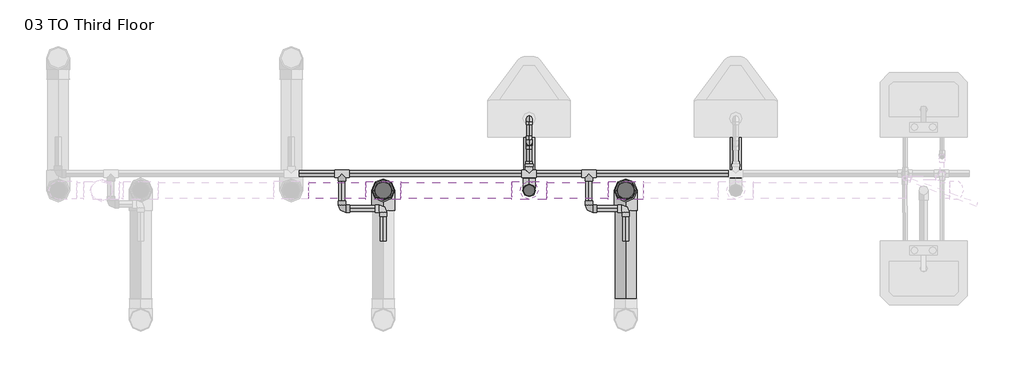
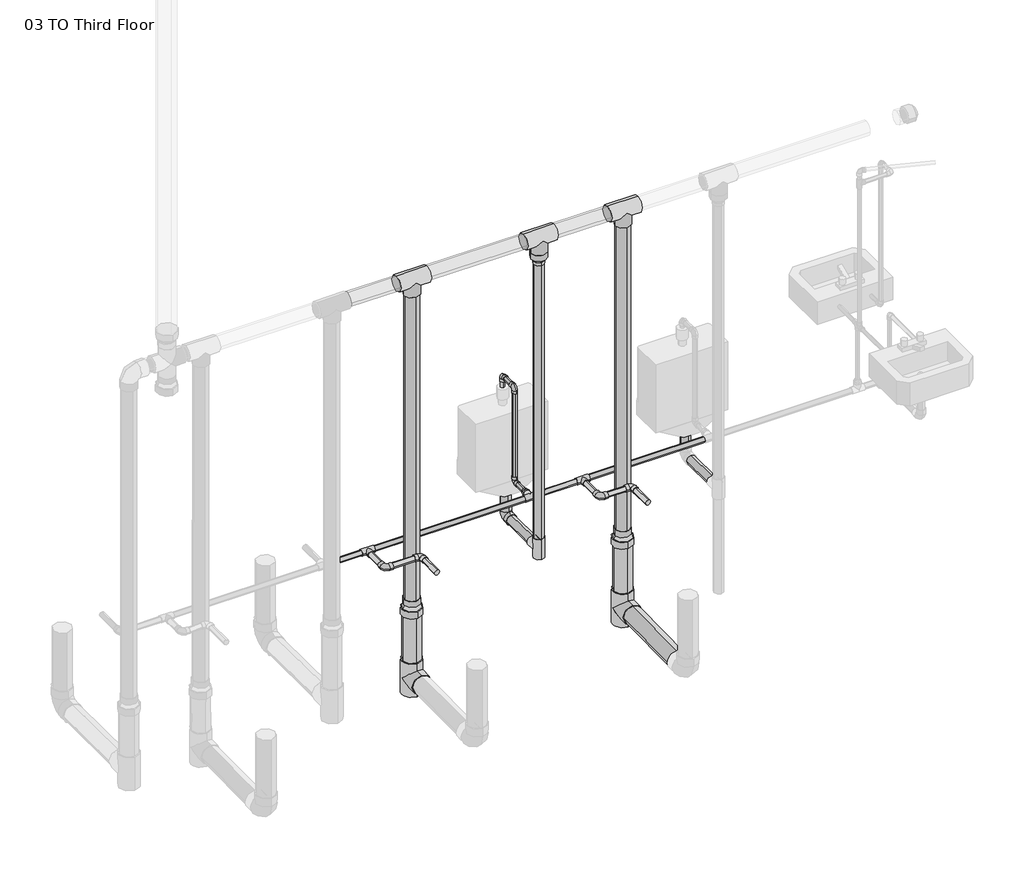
# One storey, part 2 of 3: 27 pipe segments, 21 pipe fittings.
"""IFC4 building model written with IfcOpenShell, lengths in millimetres."""

from ifc_helpers import new_model, si_unit, point, frame, frame_2d, origin, place, context, project, spatial, circle_curve, trimmed, segment, composite_curve, outline, extrude, transform, mapped, element, save
from components import elbow_pvc_sch_40_standard_39e3f0c3, elbow_pvc_sch_40_standard_517a5a8d, elbow_pvc_sch_40_standard_b266ab3f, reducer_pvc_sch_40_dwv_standard_464ee0c2, reducer_pvc_sch_40_dwv_standard_bc2808fd, reducer_pvc_sch_40_dwv_standard_0d64fc83, tee_pvc_sch_40_standard_9cddf13a, tee_pvc_sch_40_standard_b08d6211, tee_pvc_sch_40_standard_9261842d, tee_pvc_sch_40_standard_72b35c3b

model = new_model("IFC4")

# Units and contexts
model_context = context("Model", 3, world=origin())
ifc_project = project(units=[si_unit("LENGTHUNIT", "METRE", prefix="MILLI")], contexts=[model_context])

# Site, building, storey
site = spatial("IfcSite", under=ifc_project)
building = spatial("IfcBuilding", under=site)
storey = spatial("IfcBuildingStorey", under=building, Name="03 TO Third Floor", Elevation=9144.0)

# Pipe fittings
placement = place(None, origin())
elbow_pvc_sch_40_standard_shape = elbow_pvc_sch_40_standard_39e3f0c3(model_context)
element("IfcPipeFitting", 1, ObjectType="Elbow - PVC - Sch 40 : Standard", at=placement, inside=storey, context=model_context, shape_type="MappedRepresentation", body=[
    mapped(elbow_pvc_sch_40_standard_shape, transform((-14812.7542617, -4075.7109575, 9218.6125), x_axis=(0.0, 0.0, -1.0), y_axis=(0.0, -1.0, 0.0), z_axis=(-1.0, 0.0, 0.0))),
])
elbow_pvc_sch_40_standard_2_shape = elbow_pvc_sch_40_standard_517a5a8d(model_context)
element("IfcPipeFitting", 2, ObjectType="Elbow - PVC - Sch 40 : Standard", at=placement, inside=storey, context=model_context, shape_type="MappedRepresentation", body=[
    mapped(elbow_pvc_sch_40_standard_2_shape, transform((-15620.0974824, -4541.2453325, 9499.6), x_axis=(0.0, 1.0, 0.0), y_axis=(-1.0, 0.0, 0.0), z_axis=(0.0, 0.0, 1.0))),
])
element("IfcPipeFitting", 3, ObjectType="Elbow - PVC - Sch 40 : Standard", at=placement, inside=storey, context=model_context, shape_type="MappedRepresentation", body=[
    mapped(elbow_pvc_sch_40_standard_2_shape, transform((-15848.6974824, -4541.2453325, 9499.6), x_axis=(0.0, -1.0, 0.0), y_axis=(1.0, 0.0, 0.0), z_axis=(0.0, 0.0, 1.0))),
])
element("IfcPipeFitting", 4, ObjectType="Elbow - PVC - Sch 40 : Standard", at=placement, inside=storey, context=model_context, shape_type="MappedRepresentation", body=[
    mapped(elbow_pvc_sch_40_standard_2_shape, transform((-14278.7262962, -4541.2453325, 9499.6), x_axis=(0.0, 1.0, 0.0), y_axis=(-1.0, 0.0, 0.0), z_axis=(0.0, 0.0, 1.0))),
])
element("IfcPipeFitting", 5, ObjectType="Elbow - PVC - Sch 40 : Standard", at=placement, inside=storey, context=model_context, shape_type="MappedRepresentation", body=[
    mapped(elbow_pvc_sch_40_standard_2_shape, transform((-14481.9262962, -4541.2453325, 9499.6), x_axis=(0.0, -1.0, 0.0), y_axis=(1.0, 0.0, 0.0), z_axis=(0.0, 0.0, 1.0))),
])
elbow_pvc_sch_40_standard_3_shape = elbow_pvc_sch_40_standard_b266ab3f(model_context)
element("IfcPipeFitting", 6, ObjectType="Elbow - PVC - Sch 40 : Standard", at=placement, inside=storey, context=model_context, shape_type="MappedRepresentation", body=[
    mapped(elbow_pvc_sch_40_standard_3_shape, transform((-14812.7542617, -4041.5797075, 10132.21875), x_axis=(0.0, 0.0, 1.0), y_axis=(0.0, -1.0, 0.0), z_axis=(1.0, 0.0, 0.0))),
])
element("IfcPipeFitting", 7, ObjectType="Elbow - PVC - Sch 40 : Standard", at=placement, inside=storey, context=model_context, shape_type="MappedRepresentation", body=[
    mapped(elbow_pvc_sch_40_standard_3_shape, transform((-14812.7542617, -4174.9297075, 10132.21875), x_axis=(0.0, -1.0, 0.0), y_axis=(0.0, 0.0, -1.0), z_axis=(1.0, 0.0, 0.0))),
])
element("IfcPipeFitting", 8, ObjectType="Elbow - PVC - Sch 40 : Standard", at=placement, inside=storey, context=model_context, shape_type="MappedRepresentation", body=[
    mapped(elbow_pvc_sch_40_standard_3_shape, transform((-14812.7542617, -4174.9297075, 9499.6), x_axis=(0.0, 0.0, -1.0), y_axis=(0.0, -1.0, 0.0), z_axis=(-1.0, 0.0, 0.0))),
])
reducer_pvc_sch_40_dwv_standard_shape = reducer_pvc_sch_40_dwv_standard_464ee0c2(model_context)
element("IfcPipeFitting", 9, ObjectType="Reducer - PVC - Sch 40 - DWV : Standard", at=placement, inside=storey, context=model_context, shape_type="MappedRepresentation", body=[
    mapped(reducer_pvc_sch_40_dwv_standard_shape, transform((-14812.7542617, -4439.7857603, 11210.925), x_axis=(0.0, 0.0, -1.0), y_axis=(1.0, 0.0, 0.0), z_axis=(0.0, -1.0, 0.0))),
])
reducer_pvc_sch_40_dwv_standard_2_shape = reducer_pvc_sch_40_dwv_standard_bc2808fd(model_context)
element("IfcPipeFitting", 10, ObjectType="Reducer - PVC - Sch 40 - DWV : Standard", at=placement, inside=storey, context=model_context, shape_type="MappedRepresentation", body=[
    mapped(reducer_pvc_sch_40_dwv_standard_2_shape, transform((-14278.7262962, -4439.7857603, 9165.7732164), x_axis=(0.0, 0.0, -1.0), y_axis=(-1.0, 0.0, 0.0), z_axis=(0.0, 1.0, 0.0))),
])
element("IfcPipeFitting", 11, ObjectType="Reducer - PVC - Sch 40 - DWV : Standard", at=placement, inside=storey, context=model_context, shape_type="MappedRepresentation", body=[
    mapped(reducer_pvc_sch_40_dwv_standard_2_shape, transform((-15620.0974824, -4439.7857603, 9165.7732164), x_axis=(0.0, 0.0, -1.0), y_axis=(-1.0, 0.0, 0.0), z_axis=(0.0, 1.0, 0.0))),
])
reducer_pvc_sch_40_dwv_standard_3_shape = reducer_pvc_sch_40_dwv_standard_0d64fc83(model_context)
element("IfcPipeFitting", 12, ObjectType="Reducer - PVC - Sch 40 - DWV : Standard", at=placement, inside=storey, context=model_context, shape_type="MappedRepresentation", body=[
    mapped(reducer_pvc_sch_40_dwv_standard_3_shape, transform((-14812.7542617, -4307.8701325, 9499.6), x_axis=(0.0, 1.0, 0.0), y_axis=(-1.0, 0.0, 0.0), z_axis=(0.0, 0.0, 1.0))),
])
tee_pvc_sch_40_standard_shape = tee_pvc_sch_40_standard_9cddf13a(model_context)
element("IfcPipeFitting", 13, ObjectType="Tee - PVC - Sch 40 : Standard", at=placement, inside=storey, context=model_context, shape_type="MappedRepresentation", body=[
    mapped(tee_pvc_sch_40_standard_shape, transform((-15620.0974824, -4439.7857603, 8643.4730164), x_axis=(0.0, 0.0, 1.0), y_axis=(0.0, 1.0, 0.0), z_axis=(-1.0, 0.0, 0.0))),
])
element("IfcPipeFitting", 14, ObjectType="Tee - PVC - Sch 40 : Standard", at=placement, inside=storey, context=model_context, shape_type="MappedRepresentation", body=[
    mapped(tee_pvc_sch_40_standard_shape, transform((-14278.7262962, -4439.7857603, 8643.4730164), x_axis=(0.0, 0.0, 1.0), y_axis=(0.0, 1.0, 0.0), z_axis=(-1.0, 0.0, 0.0))),
])
tee_pvc_sch_40_standard_2_shape = tee_pvc_sch_40_standard_b08d6211(model_context)
element("IfcPipeFitting", 15, ObjectType="Tee - PVC - Sch 40 : Standard", at=placement, inside=storey, context=model_context, shape_type="MappedRepresentation", body=[
    mapped(tee_pvc_sch_40_standard_2_shape, transform((-14812.7542617, -4439.7857603, 9222.4049459), x_axis=(0.0, 0.0, 1.0), y_axis=(0.0, -1.0, 0.0), z_axis=(1.0, 0.0, 0.0))),
])
tee_pvc_sch_40_standard_3_shape = tee_pvc_sch_40_standard_9261842d(model_context)
element("IfcPipeFitting", 16, ObjectType="Tee - PVC - Sch 40 : Standard", at=placement, inside=storey, context=model_context, shape_type="MappedRepresentation", body=[
    mapped(tee_pvc_sch_40_standard_3_shape, transform((-14278.7262962, -4439.7857603, 11307.7752), x_axis=(-1.0, 0.0, 0.0), y_axis=(0.0, 0.0, 1.0), z_axis=(0.0, 1.0, 0.0))),
])
element("IfcPipeFitting", 17, ObjectType="Tee - PVC - Sch 40 : Standard", at=placement, inside=storey, context=model_context, shape_type="MappedRepresentation", body=[
    mapped(tee_pvc_sch_40_standard_3_shape, transform((-14812.7542617, -4439.7857603, 11307.7752), x_axis=(-1.0, 0.0, 0.0), y_axis=(0.0, 0.0, 1.0), z_axis=(0.0, 1.0, 0.0))),
])
element("IfcPipeFitting", 18, ObjectType="Tee - PVC - Sch 40 : Standard", at=placement, inside=storey, context=model_context, shape_type="MappedRepresentation", body=[
    mapped(tee_pvc_sch_40_standard_3_shape, transform((-15620.0974824, -4439.7857603, 11307.7752), x_axis=(-1.0, 0.0, 0.0), y_axis=(0.0, 0.0, 1.0), z_axis=(0.0, 1.0, 0.0))),
])
tee_pvc_sch_40_standard_4_shape = tee_pvc_sch_40_standard_72b35c3b(model_context)
element("IfcPipeFitting", 19, ObjectType="Tee - PVC - Sch 40 : Standard", at=placement, inside=storey, context=model_context, shape_type="MappedRepresentation", body=[
    mapped(tee_pvc_sch_40_standard_4_shape, transform((-15848.6974824, -4347.5703325, 9499.6), x_axis=(-1.0, 0.0, 0.0), y_axis=(0.0, 1.0, 0.0), z_axis=(0.0, 0.0, -1.0))),
])
element("IfcPipeFitting", 20, ObjectType="Tee - PVC - Sch 40 : Standard", at=placement, inside=storey, context=model_context, shape_type="MappedRepresentation", body=[
    mapped(tee_pvc_sch_40_standard_4_shape, transform((-14481.9262962, -4347.5703325, 9499.6), x_axis=(-1.0, 0.0, 0.0), y_axis=(0.0, 1.0, 0.0), z_axis=(0.0, 0.0, -1.0))),
])
element("IfcPipeFitting", 21, ObjectType="Tee - PVC - Sch 40 : Standard", at=placement, inside=storey, context=model_context, shape_type="MappedRepresentation", body=[
    mapped(tee_pvc_sch_40_standard_4_shape, transform((-14812.7542617, -4347.5703325, 9499.6), x_axis=(-1.0, 0.0, 0.0), y_axis=(0.0, -1.0, 0.0), z_axis=(0.0, 0.0, 1.0))),
])

# Pipe segments
element("IfcPipeSegment", 22, ObjectType="Standard", at=placement, inside=storey, context=model_context, shape_type="SweptSolid", body=[
    extrude(outline(composite_curve([segment(trimmed(circle_curve(frame_2d((0.0, -57.15)), 57.15), [point((-57.15, -57.15))], [point((0.0, 0.0))], False, "CARTESIAN"), True, "CONTINUOUS"), segment(trimmed(circle_curve(frame_2d((0.0, -57.15)), 57.15), [point((0.0, 0.0))], [point((57.15, -57.15))], False, "CARTESIAN"), True, "CONTINUOUS"), segment(trimmed(circle_curve(frame_2d((0.0, -57.15)), 57.15), [point((57.15, -57.15))], [point((0.0, -114.3000001))], False, "CARTESIAN"), True, "CONTINUOUS"), segment(trimmed(circle_curve(frame_2d((0.0, -57.15)), 57.15), [point((0.0, -114.3000001))], [point((-57.15, -57.15))], False, "CARTESIAN"), True, "CONTINUOUS")], self_intersect=False)), frame((-14278.7262962, -5039.2392547, 8580.0756086), z_axis=(0.0, 0.999945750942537, 0.010416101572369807), x_axis=(1.0, 0.0, 0.0)), (0.0, 0.0, 1.0), 488.9563285),
])
element("IfcPipeSegment", 23, ObjectType="Standard", at=placement, inside=storey, context=model_context, shape_type="SweptSolid", body=[
    extrude(outline(composite_curve([segment(trimmed(circle_curve(frame_2d((-15620.0974824, -4439.7857603)), 57.15), [point((-15677.2474824, -4439.7857603))], [point((-15620.0974824, -4382.6357603))], False, "CARTESIAN"), True, "CONTINUOUS"), segment(trimmed(circle_curve(frame_2d((-15620.0974824, -4439.7857603)), 57.15), [point((-15620.0974824, -4382.6357603))], [point((-15562.9474824, -4439.7857603))], False, "CARTESIAN"), True, "CONTINUOUS"), segment(trimmed(circle_curve(frame_2d((-15620.0974824, -4439.7857603)), 57.15), [point((-15562.9474824, -4439.7857603))], [point((-15620.0974824, -4496.9357603))], False, "CARTESIAN"), True, "CONTINUOUS"), segment(trimmed(circle_curve(frame_2d((-15620.0974824, -4439.7857603)), 57.15), [point((-15620.0974824, -4496.9357603))], [point((-15677.2474824, -4439.7857603))], False, "CARTESIAN"), True, "CONTINUOUS")], self_intersect=False)), frame((0.0, 0.0, 8754.5980164), z_axis=(0.0, 0.0, 1.0), x_axis=(1.0, 0.0, 0.0)), (0.0, 0.0, 1.0), 304.8),
])
element("IfcPipeSegment", 24, ObjectType="Standard", at=placement, inside=storey, context=model_context, shape_type="SweptSolid", body=[
    extrude(outline(composite_curve([segment(trimmed(circle_curve(frame_2d((-14278.7262962, -4439.7857603)), 57.15), [point((-14335.8762962, -4439.7857603))], [point((-14278.7262962, -4382.6357603))], False, "CARTESIAN"), True, "CONTINUOUS"), segment(trimmed(circle_curve(frame_2d((-14278.7262962, -4439.7857603)), 57.15), [point((-14278.7262962, -4382.6357603))], [point((-14221.5762962, -4439.7857603))], False, "CARTESIAN"), True, "CONTINUOUS"), segment(trimmed(circle_curve(frame_2d((-14278.7262962, -4439.7857603)), 57.15), [point((-14221.5762962, -4439.7857603))], [point((-14278.7262962, -4496.9357603))], False, "CARTESIAN"), True, "CONTINUOUS"), segment(trimmed(circle_curve(frame_2d((-14278.7262962, -4439.7857603)), 57.15), [point((-14278.7262962, -4496.9357603))], [point((-14335.8762962, -4439.7857603))], False, "CARTESIAN"), True, "CONTINUOUS")], self_intersect=False)), frame((0.0, 0.0, 8754.5980164), z_axis=(0.0, 0.0, 1.0), x_axis=(1.0, 0.0, 0.0)), (0.0, 0.0, 1.0), 304.8),
])
element("IfcPipeSegment", 25, ObjectType="Standard", at=placement, inside=storey, context=model_context, shape_type="SweptSolid", body=[
    extrude(outline(composite_curve([segment(trimmed(circle_curve(frame_2d((-14812.7542617, -4075.7109575)), 30.1625), [point((-14782.5917617, -4075.7109575))], [point((-14812.7542617, -4105.8734575))], False, "CARTESIAN"), True, "CONTINUOUS"), segment(trimmed(circle_curve(frame_2d((-14812.7542617, -4075.7109575)), 30.1625), [point((-14812.7542617, -4105.8734575))], [point((-14842.9167617, -4075.7109575))], False, "CARTESIAN"), True, "CONTINUOUS"), segment(trimmed(circle_curve(frame_2d((-14812.7542617, -4075.7109575)), 30.1625), [point((-14842.9167617, -4075.7109575))], [point((-14812.7542617, -4045.5484575))], False, "CARTESIAN"), True, "CONTINUOUS"), segment(trimmed(circle_curve(frame_2d((-14812.7542617, -4075.7109575)), 30.1625), [point((-14812.7542617, -4045.5484575))], [point((-14782.5917617, -4075.7109575))], False, "CARTESIAN"), True, "CONTINUOUS")], self_intersect=False)), frame((0.0, 0.0, 9283.2720133), z_axis=(0.0, 0.0, 1.0), x_axis=(1.0, 0.0, 0.0)), (0.0, 0.0, 1.0), 109.9654867),
])
element("IfcPipeSegment", 26, ObjectType="Standard", at=placement, inside=storey, context=model_context, shape_type="SweptSolid", body=[
    extrude(outline(composite_curve([segment(trimmed(circle_curve(frame_2d((0.0, 30.1625001)), 30.1625), [point((-30.1625, 30.1625001))], [point((0.0, 60.3250001))], False, "CARTESIAN"), True, "CONTINUOUS"), segment(trimmed(circle_curve(frame_2d((0.0, 30.1625001)), 30.1625), [point((0.0, 60.3250001))], [point((30.1625, 30.1625001))], False, "CARTESIAN"), True, "CONTINUOUS"), segment(trimmed(circle_curve(frame_2d((0.0, 30.1625001)), 30.1625), [point((30.1625, 30.1625001))], [point((0.0, 0.0))], False, "CARTESIAN"), True, "CONTINUOUS"), segment(trimmed(circle_curve(frame_2d((0.0, 30.1625001)), 30.1625), [point((0.0, 0.0))], [point((-30.1625, 30.1625001))], False, "CARTESIAN"), True, "CONTINUOUS")], self_intersect=False)), frame((-14812.7542617, -4140.6811388, 9189.1251363), z_axis=(0.0, -0.9999457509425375, 0.01041610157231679), x_axis=(1.0, 0.0, 0.0)), (0.0, 0.0, 1.0), 232.7600412),
])
element("IfcPipeSegment", 27, ObjectType="Standard", at=placement, inside=storey, context=model_context, shape_type="SweptSolid", body=[
    extrude(outline(composite_curve([segment(trimmed(circle_curve(frame_2d((-13669.7542617, -4075.7109575)), 30.1625), [point((-13639.5917617, -4075.7109575))], [point((-13669.7542617, -4105.8734575))], False, "CARTESIAN"), True, "CONTINUOUS"), segment(trimmed(circle_curve(frame_2d((-13669.7542617, -4075.7109575)), 30.1625), [point((-13669.7542617, -4105.8734575))], [point((-13699.9167617, -4075.7109575))], False, "CARTESIAN"), True, "CONTINUOUS"), segment(trimmed(circle_curve(frame_2d((-13669.7542617, -4075.7109575)), 30.1625), [point((-13699.9167617, -4075.7109575))], [point((-13669.7542617, -4045.5484575))], False, "CARTESIAN"), True, "CONTINUOUS"), segment(trimmed(circle_curve(frame_2d((-13669.7542617, -4075.7109575)), 30.1625), [point((-13669.7542617, -4045.5484575))], [point((-13639.5917617, -4075.7109575))], False, "CARTESIAN"), True, "CONTINUOUS")], self_intersect=False)), frame((0.0, 0.0, 9286.4470133), z_axis=(0.0, 0.0, 1.0), x_axis=(1.0, 0.0, 0.0)), (0.0, 0.0, 1.0), 106.7904867),
])
element("IfcPipeSegment", 28, ObjectType="Standard", at=placement, inside=storey, context=model_context, shape_type="SweptSolid", body=[
    extrude(outline(composite_curve([segment(trimmed(circle_curve(frame_2d((0.0, 30.1625001)), 30.1625), [point((-30.1625, 30.1625001))], [point((0.0, 60.3250001))], False, "CARTESIAN"), True, "CONTINUOUS"), segment(trimmed(circle_curve(frame_2d((0.0, 30.1625001)), 30.1625), [point((0.0, 60.3250001))], [point((30.1625, 30.1625001))], False, "CARTESIAN"), True, "CONTINUOUS"), segment(trimmed(circle_curve(frame_2d((0.0, 30.1625001)), 30.1625), [point((30.1625, 30.1625001))], [point((0.0, 0.0))], False, "CARTESIAN"), True, "CONTINUOUS"), segment(trimmed(circle_curve(frame_2d((0.0, 30.1625001)), 30.1625), [point((0.0, 0.0))], [point((-30.1625, 30.1625001))], False, "CARTESIAN"), True, "CONTINUOUS")], self_intersect=False)), frame((-13669.7542617, -4140.6811388, 9192.3001363), z_axis=(0.0, -0.9999457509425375, 0.01041610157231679), x_axis=(1.0, 0.0, 0.0)), (0.0, 0.0, 1.0), 232.7600412),
])
element("IfcPipeSegment", 29, ObjectType="Standard", at=placement, inside=storey, context=model_context, shape_type="SweptSolid", body=[
    extrude(outline(composite_curve([segment(trimmed(circle_curve(frame_2d((-14812.7542617, -4439.7857603)), 30.1625), [point((-14782.5917617, -4439.7857603))], [point((-14812.7542617, -4469.9482603))], False, "CARTESIAN"), True, "CONTINUOUS"), segment(trimmed(circle_curve(frame_2d((-14812.7542617, -4439.7857603)), 30.1625), [point((-14812.7542617, -4469.9482603))], [point((-14842.9167617, -4439.7857603))], False, "CARTESIAN"), True, "CONTINUOUS"), segment(trimmed(circle_curve(frame_2d((-14812.7542617, -4439.7857603)), 30.1625), [point((-14842.9167617, -4439.7857603))], [point((-14812.7542617, -4409.6232603))], False, "CARTESIAN"), True, "CONTINUOUS"), segment(trimmed(circle_curve(frame_2d((-14812.7542617, -4439.7857603)), 30.1625), [point((-14812.7542617, -4409.6232603))], [point((-14782.5917617, -4439.7857603))], False, "CARTESIAN"), True, "CONTINUOUS")], self_intersect=False)), frame((0.0, 0.0, 9289.0799459), z_axis=(0.0, 0.0, 1.0), x_axis=(1.0, 0.0, 0.0)), (0.0, 0.0, 1.0), 1842.4700541),
])
element("IfcPipeSegment", 30, ObjectType="Standard", at=placement, inside=storey, context=model_context, shape_type="SweptSolid", body=[
    extrude(outline(composite_curve([segment(trimmed(circle_curve(frame_2d((-15620.0974824, -4439.7857603)), 44.45), [point((-15575.6474824, -4439.7857603))], [point((-15620.0974824, -4484.2357603))], False, "CARTESIAN"), True, "CONTINUOUS"), segment(trimmed(circle_curve(frame_2d((-15620.0974824, -4439.7857603)), 44.45), [point((-15620.0974824, -4484.2357603))], [point((-15664.5474824, -4439.7857603))], False, "CARTESIAN"), True, "CONTINUOUS"), segment(trimmed(circle_curve(frame_2d((-15620.0974824, -4439.7857603)), 44.45), [point((-15664.5474824, -4439.7857603))], [point((-15620.0974824, -4395.3357603))], False, "CARTESIAN"), True, "CONTINUOUS"), segment(trimmed(circle_curve(frame_2d((-15620.0974824, -4439.7857603)), 44.45), [point((-15620.0974824, -4395.3357603))], [point((-15575.6474824, -4439.7857603))], False, "CARTESIAN"), True, "CONTINUOUS")], self_intersect=False)), frame((0.0, 0.0, 9165.7732164), z_axis=(0.0, 0.0, 1.0), x_axis=(1.0, 0.0, 0.0)), (0.0, 0.0, 1.0), 2045.1517836),
])
element("IfcPipeSegment", 31, ObjectType="Standard", at=placement, inside=storey, context=model_context, shape_type="SweptSolid", body=[
    extrude(outline(composite_curve([segment(trimmed(circle_curve(frame_2d((-14278.7262962, -4439.7857603)), 44.45), [point((-14234.2762962, -4439.7857603))], [point((-14278.7262962, -4484.2357603))], False, "CARTESIAN"), True, "CONTINUOUS"), segment(trimmed(circle_curve(frame_2d((-14278.7262962, -4439.7857603)), 44.45), [point((-14278.7262962, -4484.2357603))], [point((-14323.1762962, -4439.7857603))], False, "CARTESIAN"), True, "CONTINUOUS"), segment(trimmed(circle_curve(frame_2d((-14278.7262962, -4439.7857603)), 44.45), [point((-14323.1762962, -4439.7857603))], [point((-14278.7262962, -4395.3357603))], False, "CARTESIAN"), True, "CONTINUOUS"), segment(trimmed(circle_curve(frame_2d((-14278.7262962, -4439.7857603)), 44.45), [point((-14278.7262962, -4395.3357603))], [point((-14234.2762962, -4439.7857603))], False, "CARTESIAN"), True, "CONTINUOUS")], self_intersect=False)), frame((0.0, 0.0, 9165.7732164), z_axis=(0.0, 0.0, 1.0), x_axis=(1.0, 0.0, 0.0)), (0.0, 0.0, 1.0), 2045.1517836),
])
element("IfcPipeSegment", 32, ObjectType="Standard", at=placement, inside=storey, context=model_context, shape_type="SweptSolid", body=[
    extrude(outline(composite_curve([segment(trimmed(circle_curve(frame_2d((-4439.7857603, 11307.7752)), 44.45), [point((-4484.2357603, 11307.7752))], [point((-4439.7857603, 11352.2252))], False, "CARTESIAN"), True, "CONTINUOUS"), segment(trimmed(circle_curve(frame_2d((-4439.7857603, 11307.7752)), 44.45), [point((-4439.7857603, 11352.2252))], [point((-4395.3357603, 11307.7752))], False, "CARTESIAN"), True, "CONTINUOUS"), segment(trimmed(circle_curve(frame_2d((-4439.7857603, 11307.7752)), 44.45), [point((-4395.3357603, 11307.7752))], [point((-4439.7857603, 11263.3252))], False, "CARTESIAN"), True, "CONTINUOUS"), segment(trimmed(circle_curve(frame_2d((-4439.7857603, 11307.7752)), 44.45), [point((-4439.7857603, 11263.3252))], [point((-4484.2357603, 11307.7752))], False, "CARTESIAN"), True, "CONTINUOUS")], self_intersect=False)), frame((-15523.2472824, 0.0, 0.0), z_axis=(1.0, 0.0, 0.0), x_axis=(0.0, 1.0, 0.0)), (0.0, 0.0, 1.0), 613.6428207),
])
element("IfcPipeSegment", 33, ObjectType="Standard", at=placement, inside=storey, context=model_context, shape_type="SweptSolid", body=[
    extrude(outline(composite_curve([segment(trimmed(circle_curve(frame_2d((-4439.7857603, 11307.7752)), 44.45), [point((-4484.2357603, 11307.7752))], [point((-4439.7857603, 11352.2252))], False, "CARTESIAN"), True, "CONTINUOUS"), segment(trimmed(circle_curve(frame_2d((-4439.7857603, 11307.7752)), 44.45), [point((-4439.7857603, 11352.2252))], [point((-4395.3357603, 11307.7752))], False, "CARTESIAN"), True, "CONTINUOUS"), segment(trimmed(circle_curve(frame_2d((-4439.7857603, 11307.7752)), 44.45), [point((-4395.3357603, 11307.7752))], [point((-4439.7857603, 11263.3252))], False, "CARTESIAN"), True, "CONTINUOUS"), segment(trimmed(circle_curve(frame_2d((-4439.7857603, 11307.7752)), 44.45), [point((-4439.7857603, 11263.3252))], [point((-4484.2357603, 11307.7752))], False, "CARTESIAN"), True, "CONTINUOUS")], self_intersect=False)), frame((-14715.9040617, 0.0, 0.0), z_axis=(1.0, 0.0, 0.0), x_axis=(0.0, 1.0, 0.0)), (0.0, 0.0, 1.0), 340.3275655),
])
element("IfcPipeSegment", 34, ObjectType="Standard", at=placement, inside=storey, context=model_context, shape_type="SweptSolid", body=[
    extrude(outline(composite_curve([segment(trimmed(circle_curve(frame_2d((-4439.7857603, 11307.7752)), 44.45), [point((-4395.3357603, 11307.7752))], [point((-4439.7857603, 11263.3252))], False, "CARTESIAN"), True, "CONTINUOUS"), segment(trimmed(circle_curve(frame_2d((-4439.7857603, 11307.7752)), 44.45), [point((-4439.7857603, 11263.3252))], [point((-4484.2357603, 11307.7752))], False, "CARTESIAN"), True, "CONTINUOUS"), segment(trimmed(circle_curve(frame_2d((-4439.7857603, 11307.7752)), 44.45), [point((-4484.2357603, 11307.7752))], [point((-4439.7857603, 11352.2252))], False, "CARTESIAN"), True, "CONTINUOUS"), segment(trimmed(circle_curve(frame_2d((-4439.7857603, 11307.7752)), 44.45), [point((-4439.7857603, 11352.2252))], [point((-4395.3357603, 11307.7752))], False, "CARTESIAN"), True, "CONTINUOUS")], self_intersect=False)), frame((-16031.2472824, 0.0, 0.0), z_axis=(1.0, 0.0, 0.0), x_axis=(0.0, 1.0, 0.0)), (0.0, 0.0, 1.0), 314.2996),
])
element("IfcPipeSegment", 35, ObjectType="Standard", at=placement, inside=storey, context=model_context, shape_type="SweptSolid", body=[
    extrude(outline(composite_curve([segment(trimmed(circle_curve(frame_2d((9499.6, -15620.0974824)), 16.66875), [point((9499.6, -15603.4287324))], [point((9516.26875, -15620.0974824))], False, "CARTESIAN"), True, "CONTINUOUS"), segment(trimmed(circle_curve(frame_2d((9499.6, -15620.0974824)), 16.66875), [point((9516.26875, -15620.0974824))], [point((9499.6, -15636.7662324))], False, "CARTESIAN"), True, "CONTINUOUS"), segment(trimmed(circle_curve(frame_2d((9499.6, -15620.0974824)), 16.66875), [point((9499.6, -15636.7662324))], [point((9482.93125, -15620.0974824))], False, "CARTESIAN"), True, "CONTINUOUS"), segment(trimmed(circle_curve(frame_2d((9499.6, -15620.0974824)), 16.66875), [point((9482.93125, -15620.0974824))], [point((9499.6, -15603.4287324))], False, "CARTESIAN"), True, "CONTINUOUS")], self_intersect=False)), frame((0.0, -4719.0453325, 0.0), z_axis=(0.0, 1.0, 0.0), x_axis=(0.0, 0.0, 1.0)), (0.0, 0.0, 1.0), 134.53745),
])
element("IfcPipeSegment", 36, ObjectType="Standard", at=placement, inside=storey, context=model_context, shape_type="SweptSolid", body=[
    extrude(outline(composite_curve([segment(trimmed(circle_curve(frame_2d((-4541.2453325, 9499.6)), 16.66875), [point((-4524.5765825, 9499.6))], [point((-4541.2453325, 9482.93125))], False, "CARTESIAN"), True, "CONTINUOUS"), segment(trimmed(circle_curve(frame_2d((-4541.2453325, 9499.6)), 16.66875), [point((-4541.2453325, 9482.93125))], [point((-4557.9140825, 9499.6))], False, "CARTESIAN"), True, "CONTINUOUS"), segment(trimmed(circle_curve(frame_2d((-4541.2453325, 9499.6)), 16.66875), [point((-4557.9140825, 9499.6))], [point((-4541.2453325, 9516.26875))], False, "CARTESIAN"), True, "CONTINUOUS"), segment(trimmed(circle_curve(frame_2d((-4541.2453325, 9499.6)), 16.66875), [point((-4541.2453325, 9516.26875))], [point((-4524.5765825, 9499.6))], False, "CARTESIAN"), True, "CONTINUOUS")], self_intersect=False)), frame((-15805.4349324, 0.0, 0.0), z_axis=(1.0, 0.0, 0.0), x_axis=(0.0, 1.0, 0.0)), (0.0, 0.0, 1.0), 142.0749),
])
element("IfcPipeSegment", 37, ObjectType="Standard", at=placement, inside=storey, context=model_context, shape_type="SweptSolid", body=[
    extrude(outline(composite_curve([segment(trimmed(circle_curve(frame_2d((9499.6, -15848.6974824)), 16.66875), [point((9499.6, -15832.0287324))], [point((9516.26875, -15848.6974824))], False, "CARTESIAN"), True, "CONTINUOUS"), segment(trimmed(circle_curve(frame_2d((9499.6, -15848.6974824)), 16.66875), [point((9516.26875, -15848.6974824))], [point((9499.6, -15865.3662324))], False, "CARTESIAN"), True, "CONTINUOUS"), segment(trimmed(circle_curve(frame_2d((9499.6, -15848.6974824)), 16.66875), [point((9499.6, -15865.3662324))], [point((9482.93125, -15848.6974824))], False, "CARTESIAN"), True, "CONTINUOUS"), segment(trimmed(circle_curve(frame_2d((9499.6, -15848.6974824)), 16.66875), [point((9482.93125, -15848.6974824))], [point((9499.6, -15832.0287324))], False, "CARTESIAN"), True, "CONTINUOUS")], self_intersect=False)), frame((0.0, -4497.9827825, 0.0), z_axis=(0.0, 1.0, 0.0), x_axis=(0.0, 0.0, 1.0)), (0.0, 0.0, 1.0), 110.71225),
])
element("IfcPipeSegment", 38, ObjectType="Standard", at=placement, inside=storey, context=model_context, shape_type="SweptSolid", body=[
    extrude(outline(composite_curve([segment(trimmed(circle_curve(frame_2d((-4347.5703325, 9499.6)), 16.66875), [point((-4364.2390825, 9499.6))], [point((-4347.5703325, 9516.26875))], False, "CARTESIAN"), True, "CONTINUOUS"), segment(trimmed(circle_curve(frame_2d((-4347.5703325, 9499.6)), 16.66875), [point((-4347.5703325, 9516.26875))], [point((-4330.9015825, 9499.6))], False, "CARTESIAN"), True, "CONTINUOUS"), segment(trimmed(circle_curve(frame_2d((-4347.5703325, 9499.6)), 16.66875), [point((-4330.9015825, 9499.6))], [point((-4347.5703325, 9482.93125))], False, "CARTESIAN"), True, "CONTINUOUS"), segment(trimmed(circle_curve(frame_2d((-4347.5703325, 9499.6)), 16.66875), [point((-4347.5703325, 9482.93125))], [point((-4364.2390825, 9499.6))], False, "CARTESIAN"), True, "CONTINUOUS")], self_intersect=False)), frame((-16088.3972824, 0.0, 0.0), z_axis=(1.0, 0.0, 0.0), x_axis=(0.0, 1.0, 0.0)), (0.0, 0.0, 1.0), 199.9996),
])
element("IfcPipeSegment", 39, ObjectType="Standard", at=placement, inside=storey, context=model_context, shape_type="SweptSolid", body=[
    extrude(outline(composite_curve([segment(trimmed(circle_curve(frame_2d((9499.6, -14278.7262962)), 16.66875), [point((9499.6, -14262.0575462))], [point((9516.26875, -14278.7262962))], False, "CARTESIAN"), True, "CONTINUOUS"), segment(trimmed(circle_curve(frame_2d((9499.6, -14278.7262962)), 16.66875), [point((9516.26875, -14278.7262962))], [point((9499.6, -14295.3950462))], False, "CARTESIAN"), True, "CONTINUOUS"), segment(trimmed(circle_curve(frame_2d((9499.6, -14278.7262962)), 16.66875), [point((9499.6, -14295.3950462))], [point((9482.93125, -14278.7262962))], False, "CARTESIAN"), True, "CONTINUOUS"), segment(trimmed(circle_curve(frame_2d((9499.6, -14278.7262962)), 16.66875), [point((9482.93125, -14278.7262962))], [point((9499.6, -14262.0575462))], False, "CARTESIAN"), True, "CONTINUOUS")], self_intersect=False)), frame((0.0, -4719.0453325, 0.0), z_axis=(0.0, 1.0, 0.0), x_axis=(0.0, 0.0, 1.0)), (0.0, 0.0, 1.0), 134.53745),
])
element("IfcPipeSegment", 40, ObjectType="Standard", at=placement, inside=storey, context=model_context, shape_type="SweptSolid", body=[
    extrude(outline(composite_curve([segment(trimmed(circle_curve(frame_2d((-4541.2453325, 9499.6)), 16.66875), [point((-4524.5765825, 9499.6))], [point((-4541.2453325, 9482.93125))], False, "CARTESIAN"), True, "CONTINUOUS"), segment(trimmed(circle_curve(frame_2d((-4541.2453325, 9499.6)), 16.66875), [point((-4541.2453325, 9482.93125))], [point((-4557.9140825, 9499.6))], False, "CARTESIAN"), True, "CONTINUOUS"), segment(trimmed(circle_curve(frame_2d((-4541.2453325, 9499.6)), 16.66875), [point((-4557.9140825, 9499.6))], [point((-4541.2453325, 9516.26875))], False, "CARTESIAN"), True, "CONTINUOUS"), segment(trimmed(circle_curve(frame_2d((-4541.2453325, 9499.6)), 16.66875), [point((-4541.2453325, 9516.26875))], [point((-4524.5765825, 9499.6))], False, "CARTESIAN"), True, "CONTINUOUS")], self_intersect=False)), frame((-14438.6637462, 0.0, 0.0), z_axis=(1.0, 0.0, 0.0), x_axis=(0.0, 1.0, 0.0)), (0.0, 0.0, 1.0), 116.6749),
])
element("IfcPipeSegment", 41, ObjectType="Standard", at=placement, inside=storey, context=model_context, shape_type="SweptSolid", body=[
    extrude(outline(composite_curve([segment(trimmed(circle_curve(frame_2d((9499.6, -14481.9262962)), 16.66875), [point((9499.6, -14465.2575462))], [point((9516.26875, -14481.9262962))], False, "CARTESIAN"), True, "CONTINUOUS"), segment(trimmed(circle_curve(frame_2d((9499.6, -14481.9262962)), 16.66875), [point((9516.26875, -14481.9262962))], [point((9499.6, -14498.5950462))], False, "CARTESIAN"), True, "CONTINUOUS"), segment(trimmed(circle_curve(frame_2d((9499.6, -14481.9262962)), 16.66875), [point((9499.6, -14498.5950462))], [point((9482.93125, -14481.9262962))], False, "CARTESIAN"), True, "CONTINUOUS"), segment(trimmed(circle_curve(frame_2d((9499.6, -14481.9262962)), 16.66875), [point((9482.93125, -14481.9262962))], [point((9499.6, -14465.2575462))], False, "CARTESIAN"), True, "CONTINUOUS")], self_intersect=False)), frame((0.0, -4497.9827825, 0.0), z_axis=(0.0, 1.0, 0.0), x_axis=(0.0, 0.0, 1.0)), (0.0, 0.0, 1.0), 110.71225),
])
element("IfcPipeSegment", 42, ObjectType="Standard", at=placement, inside=storey, context=model_context, shape_type="SweptSolid", body=[
    extrude(outline(composite_curve([segment(trimmed(circle_curve(frame_2d((-14812.7542617, -4041.5797075)), 13.49375), [point((-14826.2480117, -4041.5797075))], [point((-14812.7542617, -4028.0859575))], False, "CARTESIAN"), True, "CONTINUOUS"), segment(trimmed(circle_curve(frame_2d((-14812.7542617, -4041.5797075)), 13.49375), [point((-14812.7542617, -4028.0859575))], [point((-14799.2605117, -4041.5797075))], False, "CARTESIAN"), True, "CONTINUOUS"), segment(trimmed(circle_curve(frame_2d((-14812.7542617, -4041.5797075)), 13.49375), [point((-14799.2605117, -4041.5797075))], [point((-14812.7542617, -4055.0734575))], False, "CARTESIAN"), True, "CONTINUOUS"), segment(trimmed(circle_curve(frame_2d((-14812.7542617, -4041.5797075)), 13.49375), [point((-14812.7542617, -4055.0734575))], [point((-14826.2480117, -4041.5797075))], False, "CARTESIAN"), True, "CONTINUOUS")], self_intersect=False)), frame((0.0, 0.0, 10056.01875), z_axis=(0.0, 0.0, 1.0), x_axis=(1.0, 0.0, 0.0)), (0.0, 0.0, 1.0), 40.87495),
])
element("IfcPipeSegment", 43, ObjectType="Standard", at=placement, inside=storey, context=model_context, shape_type="SweptSolid", body=[
    extrude(outline(composite_curve([segment(trimmed(circle_curve(frame_2d((10132.21875, -14812.7542617)), 13.49375), [point((10132.21875, -14826.2480117))], [point((10118.725, -14812.7542617))], False, "CARTESIAN"), True, "CONTINUOUS"), segment(trimmed(circle_curve(frame_2d((10132.21875, -14812.7542617)), 13.49375), [point((10118.725, -14812.7542617))], [point((10132.21875, -14799.2605117))], False, "CARTESIAN"), True, "CONTINUOUS"), segment(trimmed(circle_curve(frame_2d((10132.21875, -14812.7542617)), 13.49375), [point((10132.21875, -14799.2605117))], [point((10145.7125, -14812.7542617))], False, "CARTESIAN"), True, "CONTINUOUS"), segment(trimmed(circle_curve(frame_2d((10132.21875, -14812.7542617)), 13.49375), [point((10145.7125, -14812.7542617))], [point((10132.21875, -14826.2480117))], False, "CARTESIAN"), True, "CONTINUOUS")], self_intersect=False)), frame((0.0, -4139.6046575, 0.0), z_axis=(0.0, 1.0, 0.0), x_axis=(0.0, 0.0, 1.0)), (0.0, 0.0, 1.0), 62.6999),
])
element("IfcPipeSegment", 44, ObjectType="Standard", at=placement, inside=storey, context=model_context, shape_type="SweptSolid", body=[
    extrude(outline(composite_curve([segment(trimmed(circle_curve(frame_2d((-14812.7542617, -4174.9297075)), 13.49375), [point((-14799.2605117, -4174.9297075))], [point((-14812.7542617, -4188.4234575))], False, "CARTESIAN"), True, "CONTINUOUS"), segment(trimmed(circle_curve(frame_2d((-14812.7542617, -4174.9297075)), 13.49375), [point((-14812.7542617, -4188.4234575))], [point((-14826.2480117, -4174.9297075))], False, "CARTESIAN"), True, "CONTINUOUS"), segment(trimmed(circle_curve(frame_2d((-14812.7542617, -4174.9297075)), 13.49375), [point((-14826.2480117, -4174.9297075))], [point((-14812.7542617, -4161.4359575))], False, "CARTESIAN"), True, "CONTINUOUS"), segment(trimmed(circle_curve(frame_2d((-14812.7542617, -4174.9297075)), 13.49375), [point((-14812.7542617, -4161.4359575))], [point((-14799.2605117, -4174.9297075))], False, "CARTESIAN"), True, "CONTINUOUS")], self_intersect=False)), frame((0.0, 0.0, 9534.92505), z_axis=(0.0, 0.0, 1.0), x_axis=(1.0, 0.0, 0.0)), (0.0, 0.0, 1.0), 561.96865),
])
element("IfcPipeSegment", 45, ObjectType="Standard", at=placement, inside=storey, context=model_context, shape_type="SweptSolid", body=[
    extrude(outline(composite_curve([segment(trimmed(circle_curve(frame_2d((9499.6, -14812.7542617)), 13.49375), [point((9499.6, -14826.2480117))], [point((9486.10625, -14812.7542617))], False, "CARTESIAN"), True, "CONTINUOUS"), segment(trimmed(circle_curve(frame_2d((9499.6, -14812.7542617)), 13.49375), [point((9486.10625, -14812.7542617))], [point((9499.6, -14799.2605117))], False, "CARTESIAN"), True, "CONTINUOUS"), segment(trimmed(circle_curve(frame_2d((9499.6, -14812.7542617)), 13.49375), [point((9499.6, -14799.2605117))], [point((9513.09375, -14812.7542617))], False, "CARTESIAN"), True, "CONTINUOUS"), segment(trimmed(circle_curve(frame_2d((9499.6, -14812.7542617)), 13.49375), [point((9513.09375, -14812.7542617))], [point((9499.6, -14826.2480117))], False, "CARTESIAN"), True, "CONTINUOUS")], self_intersect=False)), frame((0.0, -4280.7675388, 0.0), z_axis=(0.0, 1.0, 0.0), x_axis=(0.0, 0.0, 1.0)), (0.0, 0.0, 1.0), 70.5127813),
])
element("IfcPipeSegment", 46, ObjectType="Standard", at=placement, inside=storey, context=model_context, shape_type="SweptSolid", body=[
    extrude(outline(composite_curve([segment(trimmed(circle_curve(frame_2d((-4347.5703325, 9499.6)), 16.66875), [point((-4364.2390825, 9499.6))], [point((-4347.5703325, 9516.26875))], False, "CARTESIAN"), True, "CONTINUOUS"), segment(trimmed(circle_curve(frame_2d((-4347.5703325, 9499.6)), 16.66875), [point((-4347.5703325, 9516.26875))], [point((-4330.9015825, 9499.6))], False, "CARTESIAN"), True, "CONTINUOUS"), segment(trimmed(circle_curve(frame_2d((-4347.5703325, 9499.6)), 16.66875), [point((-4330.9015825, 9499.6))], [point((-4347.5703325, 9482.93125))], False, "CARTESIAN"), True, "CONTINUOUS"), segment(trimmed(circle_curve(frame_2d((-4347.5703325, 9499.6)), 16.66875), [point((-4347.5703325, 9482.93125))], [point((-4364.2390825, 9499.6))], False, "CARTESIAN"), True, "CONTINUOUS")], self_intersect=False)), frame((-14773.0540617, 0.0, 0.0), z_axis=(1.0, 0.0, 0.0), x_axis=(0.0, 1.0, 0.0)), (0.0, 0.0, 1.0), 251.4275655),
])
element("IfcPipeSegment", 47, ObjectType="Standard", at=placement, inside=storey, context=model_context, shape_type="SweptSolid", body=[
    extrude(outline(composite_curve([segment(trimmed(circle_curve(frame_2d((-4347.5703325, 9499.6)), 16.66875), [point((-4364.2390825, 9499.6))], [point((-4347.5703325, 9516.26875))], False, "CARTESIAN"), True, "CONTINUOUS"), segment(trimmed(circle_curve(frame_2d((-4347.5703325, 9499.6)), 16.66875), [point((-4347.5703325, 9516.26875))], [point((-4330.9015825, 9499.6))], False, "CARTESIAN"), True, "CONTINUOUS"), segment(trimmed(circle_curve(frame_2d((-4347.5703325, 9499.6)), 16.66875), [point((-4330.9015825, 9499.6))], [point((-4347.5703325, 9482.93125))], False, "CARTESIAN"), True, "CONTINUOUS"), segment(trimmed(circle_curve(frame_2d((-4347.5703325, 9499.6)), 16.66875), [point((-4347.5703325, 9482.93125))], [point((-4364.2390825, 9499.6))], False, "CARTESIAN"), True, "CONTINUOUS")], self_intersect=False)), frame((-15808.9972824, 0.0, 0.0), z_axis=(1.0, 0.0, 0.0), x_axis=(0.0, 1.0, 0.0)), (0.0, 0.0, 1.0), 956.5428207),
])
element("IfcPipeSegment", 48, ObjectType="Standard", at=placement, inside=storey, context=model_context, shape_type="SweptSolid", body=[
    extrude(outline(composite_curve([segment(trimmed(circle_curve(frame_2d((-4347.5703325, 9499.6)), 16.66875), [point((-4364.2390825, 9499.6))], [point((-4347.5703325, 9516.26875))], False, "CARTESIAN"), True, "CONTINUOUS"), segment(trimmed(circle_curve(frame_2d((-4347.5703325, 9499.6)), 16.66875), [point((-4347.5703325, 9516.26875))], [point((-4330.9015825, 9499.6))], False, "CARTESIAN"), True, "CONTINUOUS"), segment(trimmed(circle_curve(frame_2d((-4347.5703325, 9499.6)), 16.66875), [point((-4330.9015825, 9499.6))], [point((-4347.5703325, 9482.93125))], False, "CARTESIAN"), True, "CONTINUOUS"), segment(trimmed(circle_curve(frame_2d((-4347.5703325, 9499.6)), 16.66875), [point((-4347.5703325, 9482.93125))], [point((-4364.2390825, 9499.6))], False, "CARTESIAN"), True, "CONTINUOUS")], self_intersect=False)), frame((-14442.2260962, 0.0, 0.0), z_axis=(1.0, 0.0, 0.0), x_axis=(0.0, 1.0, 0.0)), (0.0, 0.0, 1.0), 732.7716345),
])

save(model, "model.ifc")
